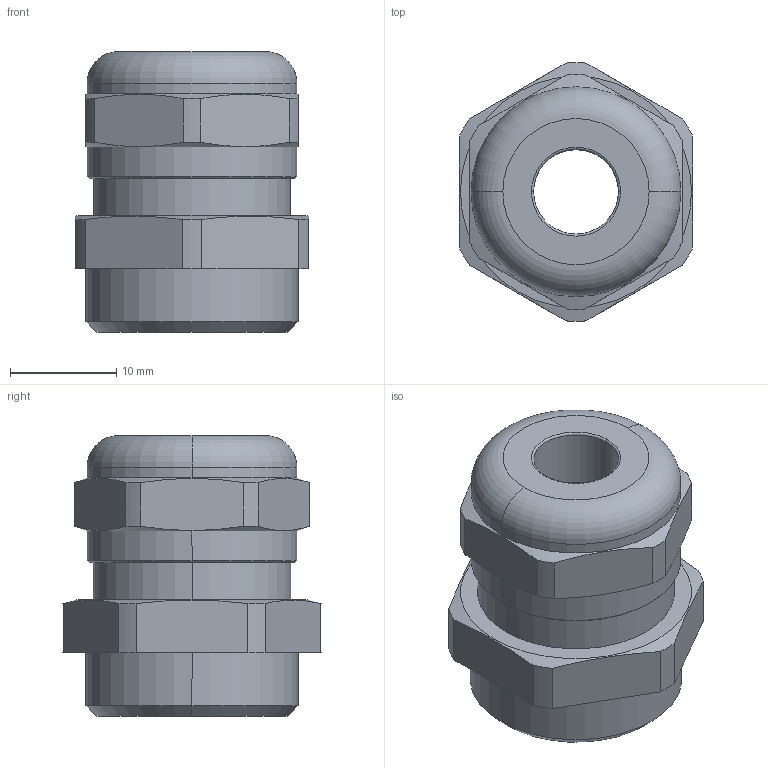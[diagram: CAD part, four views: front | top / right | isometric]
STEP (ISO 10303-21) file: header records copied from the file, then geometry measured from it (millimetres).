
FILE_DESCRIPTION (( 'STEP AP203' ), '1' );
FILE_NAME ('18M200508.STEP', '2006-08-17T09:18:16', ( ' ' ), ( '' ), 'SwSTEP 2.0', 'SolidWorks 2005278', '' );
FILE_SCHEMA (( 'CONFIG_CONTROL_DESIGN' ));
Length unit declared in the file: millimetre
Products named in the file (1): 18M200508
Bounding box: 22 x 24.39 x 26.5 mm (x, y, z)
Volume: 7301.3 mm3; surface area: 3108 mm2
Topology: 1 solids, 1 shells, 90 faces, 234 edges, 152 vertices
Faces by surface type: plane 54, cylinder 22, cone 10, torus 4
Entity records: 2869 total; most frequent: CARTESIAN_POINT 573, ORIENTED_EDGE 468, DIRECTION 450, EDGE_CURVE 234, VERTEX_POINT 152, LINE 152, VECTOR 152, AXIS2_PLACEMENT_3D 149
